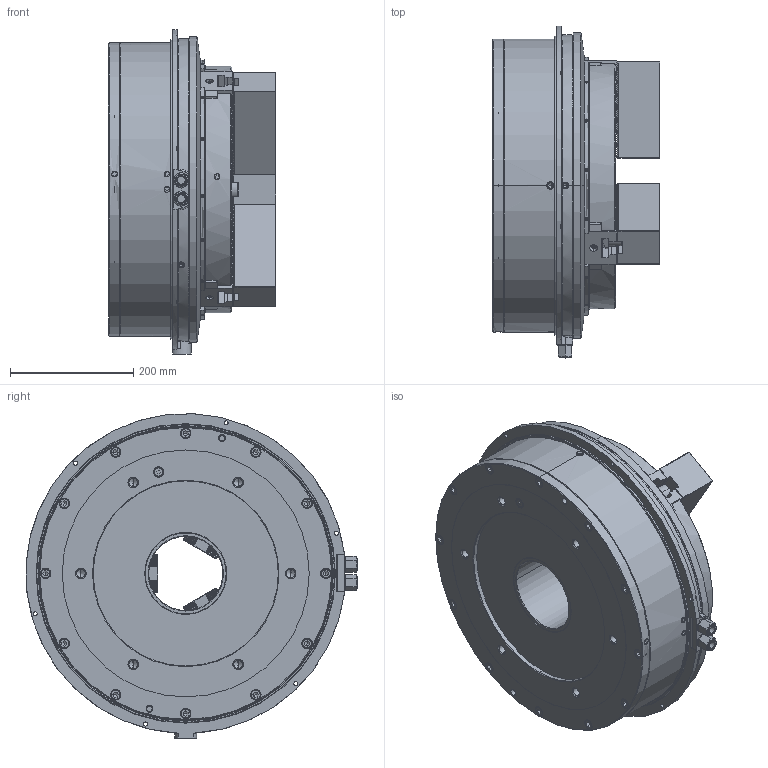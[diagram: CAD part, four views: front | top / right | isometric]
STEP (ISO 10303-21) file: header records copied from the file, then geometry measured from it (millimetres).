
FILE_DESCRIPTION (( 'STEP AP214' ), '1' );
FILE_NAME ('DEV-UVE400K-UC.STEP', '2024-10-03T05:48:10', ( '' ), ( '' ), 'SwSTEP 2.0', 'SolidWorks 2022', '' );
FILE_SCHEMA (( 'AUTOMOTIVE_DESIGN' ));
Length unit declared in the file: millimetre
Products named in the file (6): DEV-UVE400K-UC; Part1^DEV-UVE400K-クミタテ; Copy of 61P862639^DEV-UVE400K-クミタテ; Copy of 0030120045^DEV-UVE400K-クミタテ; Copy of 0693000003^DEV-UVE400K-クミタテ; Copy of 61P401355^DEV-UVE400K-クミタテ
Assembly tree (18 placements, depth 2):
  DEV-UVE400K-UC
    Copy of 61P401355^DEV-UVE400K-クミタテ  x6
    Copy of 61P862639^DEV-UVE400K-クミタテ  x3
    Copy of 0030120045^DEV-UVE400K-クミタテ  x6
    Copy of 0693000003^DEV-UVE400K-クミタテ  x2
    Part1^DEV-UVE400K-クミタテ
Bounding box: 271.51 x 537.7 x 525.69 mm (x, y, z)
Volume: 32357027 mm3; surface area: 1263005.9 mm2
Topology: 20 solids, 50 shells, 5632 faces, 15617 edges, 10192 vertices
Faces by surface type: plane 3436, cylinder 1289, cone 632, bspline 212, torus 43, sphere 20
Entity records: 155038 total; most frequent: CARTESIAN_POINT 43205, ORIENTED_EDGE 24294, DIRECTION 21543, EDGE_CURVE 12147, LINE 8229, VECTOR 8229, VERTEX_POINT 7990, AXIS2_PLACEMENT_3D 6657
